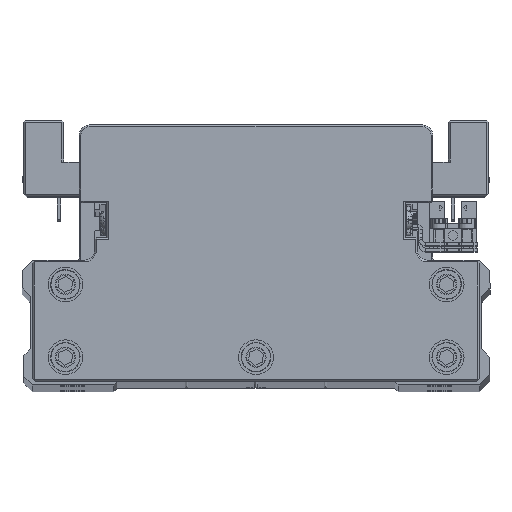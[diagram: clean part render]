
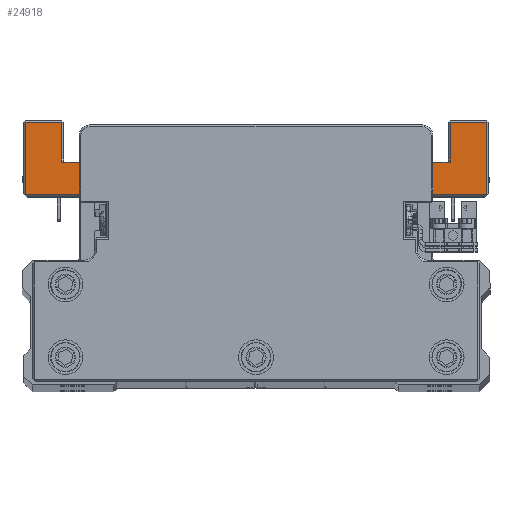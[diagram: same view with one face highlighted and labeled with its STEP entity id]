
A CAD part, top view. The second image highlights one B-rep face of the part: STEP entity #24918.
In plain terms, the highlighted planar face has unit normal (0, 0, 1) as drawn and (0, -1, 0) by its records, which use the part's own axes.
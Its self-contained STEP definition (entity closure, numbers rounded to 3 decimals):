
#138 = LINE ( 'NONE', #12555, #32955 ) ;
#197 = ORIENTED_EDGE ( 'NONE', *, *, #26431, .F. ) ;
#311 = VECTOR ( 'NONE', #2240, 1000. ) ;
#453 = CIRCLE ( 'NONE', #23203, 1.5 ) ;
#639 = EDGE_CURVE ( 'NONE', #24244, #33655, #453, .T. ) ;
#754 = ORIENTED_EDGE ( 'NONE', *, *, #22365, .T. ) ;
#775 = LINE ( 'NONE', #13198, #20446 ) ;
#1421 = ORIENTED_EDGE ( 'NONE', *, *, #2141, .T. ) ;
#1478 = CARTESIAN_POINT ( 'NONE',  ( 40.066, -45., -43. ) ) ;
#1852 = DIRECTION ( 'NONE',  ( 1., 0., 0. ) ) ;
#2105 = CARTESIAN_POINT ( 'NONE',  ( 56., -45., -52.5 ) ) ;
#2141 = EDGE_CURVE ( 'NONE', #39687, #10427, #25916, .T. ) ;
#2240 = DIRECTION ( 'NONE',  ( -1., 0., 0. ) ) ;
#2705 = CARTESIAN_POINT ( 'NONE',  ( -40.066, -45., -41.5 ) ) ;
#4030 = ORIENTED_EDGE ( 'NONE', *, *, #25522, .F. ) ;
#4776 = CIRCLE ( 'NONE', #27536, 1.5 ) ;
#4946 = DIRECTION ( 'NONE',  ( 1., 0., 0. ) ) ;
#5039 = DIRECTION ( 'NONE',  ( -1., 0., 0. ) ) ;
#5588 = CARTESIAN_POINT ( 'NONE',  ( 40.066, -45., -41.5 ) ) ;
#5653 = EDGE_CURVE ( 'NONE', #10427, #36340, #20418, .T. ) ;
#6035 = LINE ( 'NONE', #18467, #11220 ) ;
#6084 = VECTOR ( 'NONE', #21027, 1000. ) ;
#7031 = CARTESIAN_POINT ( 'NONE',  ( -36.217, -45., -42.5 ) ) ;
#7249 = EDGE_CURVE ( 'NONE', #11937, #27771, #17724, .T. ) ;
#7701 = CARTESIAN_POINT ( 'NONE',  ( 66.5, -45., -43.5 ) ) ;
#7959 = VERTEX_POINT ( 'NONE', #28213 ) ;
#8338 = ORIENTED_EDGE ( 'NONE', *, *, #37484, .T. ) ;
#8608 = CARTESIAN_POINT ( 'NONE',  ( 25.802, -45., -41.111 ) ) ;
#8889 = DIRECTION ( 'NONE',  ( -1., 0., 0. ) ) ;
#8930 = VERTEX_POINT ( 'NONE', #32349 ) ;
#8983 = DIRECTION ( 'NONE',  ( -1., 0., 0. ) ) ;
#9505 = CARTESIAN_POINT ( 'NONE',  ( 46., -45., -54. ) ) ;
#9977 = LINE ( 'NONE', #22388, #21191 ) ;
#10015 = LINE ( 'NONE', #22431, #29190 ) ;
#10035 = DIRECTION ( 'NONE',  ( 0., -1., 0. ) ) ;
#10293 = CARTESIAN_POINT ( 'NONE',  ( 36.217, -45., -42.5 ) ) ;
#10427 = VERTEX_POINT ( 'NONE', #34998 ) ;
#10450 = DIRECTION ( 'NONE',  ( 0., 0., -1. ) ) ;
#10508 = CARTESIAN_POINT ( 'NONE',  ( 46., -45., -54. ) ) ;
#11033 = VECTOR ( 'NONE', #10450, 1000. ) ;
#11220 = VECTOR ( 'NONE', #30886, 1000. ) ;
#11543 = VERTEX_POINT ( 'NONE', #36179 ) ;
#11937 = VERTEX_POINT ( 'NONE', #2105 ) ;
#12555 = CARTESIAN_POINT ( 'NONE',  ( -66., -45., -43. ) ) ;
#13095 = FACE_OUTER_BOUND ( 'NONE', #28108, .T. ) ;
#13198 = CARTESIAN_POINT ( 'NONE',  ( -46., -45., -52.5 ) ) ;
#13464 = VERTEX_POINT ( 'NONE', #31396 ) ;
#13539 = ORIENTED_EDGE ( 'NONE', *, *, #18884, .T. ) ;
#14163 = CARTESIAN_POINT ( 'NONE',  ( -46., -45., -54. ) ) ;
#14347 = ORIENTED_EDGE ( 'NONE', *, *, #27784, .T. ) ;
#14502 = LINE ( 'NONE', #26931, #36629 ) ;
#15002 = ORIENTED_EDGE ( 'NONE', *, *, #639, .T. ) ;
#15121 = DIRECTION ( 'NONE',  ( 0., 1., 0. ) ) ;
#15169 = AXIS2_PLACEMENT_3D ( 'NONE', #37943, #10035, #22445 ) ;
#15392 = VECTOR ( 'NONE', #21927, 1000. ) ;
#15647 = EDGE_CURVE ( 'NONE', #13464, #33949, #24452, .T. ) ;
#16003 = EDGE_CURVE ( 'NONE', #24538, #34701, #24354, .T. ) ;
#17073 = VECTOR ( 'NONE', #5039, 1000. ) ;
#17335 = LINE ( 'NONE', #29748, #20499 ) ;
#17724 = LINE ( 'NONE', #30134, #311 ) ;
#17825 = CARTESIAN_POINT ( 'NONE',  ( 46., -45., -52.5 ) ) ;
#18025 = DIRECTION ( 'NONE',  ( 0., 1., 0. ) ) ;
#18185 = CARTESIAN_POINT ( 'NONE',  ( -56., -45., -52.5 ) ) ;
#18274 = CARTESIAN_POINT ( 'NONE',  ( -46., -45., -52.5 ) ) ;
#18467 = CARTESIAN_POINT ( 'NONE',  ( -39.868, -45., -42.987 ) ) ;
#18884 = EDGE_CURVE ( 'NONE', #33655, #39687, #138, .T. ) ;
#18894 = EDGE_CURVE ( 'NONE', #35705, #39267, #37414, .T. ) ;
#18925 = ORIENTED_EDGE ( 'NONE', *, *, #27170, .F. ) ;
#19023 = EDGE_CURVE ( 'NONE', #36340, #29431, #10015, .T. ) ;
#20123 = DIRECTION ( 'NONE',  ( 0., 0., 1. ) ) ;
#20418 = LINE ( 'NONE', #32844, #29677 ) ;
#20446 = VECTOR ( 'NONE', #25616, 1000. ) ;
#20499 = VECTOR ( 'NONE', #1852, 1000. ) ;
#20516 = LINE ( 'NONE', #32943, #17073 ) ;
#20564 = EDGE_CURVE ( 'NONE', #11937, #11543, #9977, .T. ) ;
#21027 = DIRECTION ( 'NONE',  ( -0.991, 0., 0.132 ) ) ;
#21191 = VECTOR ( 'NONE', #34821, 1000. ) ;
#21927 = DIRECTION ( 'NONE',  ( 1., 0., 0. ) ) ;
#22365 = EDGE_CURVE ( 'NONE', #8930, #13464, #35610, .T. ) ;
#22388 = CARTESIAN_POINT ( 'NONE',  ( 56., -45., -64.5 ) ) ;
#22431 = CARTESIAN_POINT ( 'NONE',  ( -56., -45., -52.5 ) ) ;
#22442 = ORIENTED_EDGE ( 'NONE', *, *, #29710, .T. ) ;
#22445 = DIRECTION ( 'NONE',  ( 0., 0., -1. ) ) ;
#23203 = AXIS2_PLACEMENT_3D ( 'NONE', #2705, #15121, #27551 ) ;
#23249 = VECTOR ( 'NONE', #20123, 1000. ) ;
#23922 = ORIENTED_EDGE ( 'NONE', *, *, #20564, .T. ) ;
#24244 = VERTEX_POINT ( 'NONE', #29877 ) ;
#24354 = LINE ( 'NONE', #36786, #30349 ) ;
#24452 = LINE ( 'NONE', #36891, #31621 ) ;
#24538 = VERTEX_POINT ( 'NONE', #10293 ) ;
#24911 = ORIENTED_EDGE ( 'NONE', *, *, #16003, .T. ) ;
#24918 = ADVANCED_FACE ( 'NONE', ( #13095 ), #25506, .T. ) ;
#24975 = DIRECTION ( 'NONE',  ( -1., 0., 0. ) ) ;
#25506 = PLANE ( 'NONE',  #15169 ) ;
#25522 = EDGE_CURVE ( 'NONE', #35445, #29431, #20516, .T. ) ;
#25616 = DIRECTION ( 'NONE',  ( 0., 0., 1. ) ) ;
#25693 = EDGE_CURVE ( 'NONE', #34701, #24244, #6035, .T. ) ;
#25916 = LINE ( 'NONE', #38355, #11033 ) ;
#26431 = EDGE_CURVE ( 'NONE', #27771, #39267, #14502, .T. ) ;
#26931 = CARTESIAN_POINT ( 'NONE',  ( 46., -45., -52.5 ) ) ;
#27170 = EDGE_CURVE ( 'NONE', #35705, #35445, #775, .T. ) ;
#27536 = AXIS2_PLACEMENT_3D ( 'NONE', #5588, #18025, #30440 ) ;
#27551 = DIRECTION ( 'NONE',  ( 0., 0., -1. ) ) ;
#27771 = VERTEX_POINT ( 'NONE', #17825 ) ;
#27784 = EDGE_CURVE ( 'NONE', #33949, #7959, #4776, .T. ) ;
#28108 = EDGE_LOOP ( 'NONE', ( #24911, #34175, #15002, #13539, #1421, #36435, #29642, #4030, #18925, #35014, #197, #33526, #23922, #22442, #754, #34339, #14347, #8338 ) ) ;
#28213 = CARTESIAN_POINT ( 'NONE',  ( 39.868, -45., -42.987 ) ) ;
#29190 = VECTOR ( 'NONE', #34865, 1000. ) ;
#29431 = VERTEX_POINT ( 'NONE', #18185 ) ;
#29642 = ORIENTED_EDGE ( 'NONE', *, *, #19023, .T. ) ;
#29677 = VECTOR ( 'NONE', #4946, 1000. ) ;
#29710 = EDGE_CURVE ( 'NONE', #11543, #8930, #17335, .T. ) ;
#29748 = CARTESIAN_POINT ( 'NONE',  ( 67., -45., -64. ) ) ;
#29877 = CARTESIAN_POINT ( 'NONE',  ( -39.868, -45., -42.987 ) ) ;
#30134 = CARTESIAN_POINT ( 'NONE',  ( 55.5, -45., -52.5 ) ) ;
#30349 = VECTOR ( 'NONE', #8889, 1000. ) ;
#30440 = DIRECTION ( 'NONE',  ( 0., 0., -1. ) ) ;
#30886 = DIRECTION ( 'NONE',  ( -0.991, 0., -0.132 ) ) ;
#31396 = CARTESIAN_POINT ( 'NONE',  ( 66.5, -45., -43. ) ) ;
#31621 = VECTOR ( 'NONE', #8983, 1000. ) ;
#31634 = CARTESIAN_POINT ( 'NONE',  ( -66.5, -45., -43. ) ) ;
#32349 = CARTESIAN_POINT ( 'NONE',  ( 66.5, -45., -64. ) ) ;
#32844 = CARTESIAN_POINT ( 'NONE',  ( -55.5, -45., -64. ) ) ;
#32943 = CARTESIAN_POINT ( 'NONE',  ( -55.5, -45., -52.5 ) ) ;
#32955 = VECTOR ( 'NONE', #24975, 1000. ) ;
#33526 = ORIENTED_EDGE ( 'NONE', *, *, #7249, .F. ) ;
#33655 = VERTEX_POINT ( 'NONE', #39798 ) ;
#33949 = VERTEX_POINT ( 'NONE', #1478 ) ;
#34175 = ORIENTED_EDGE ( 'NONE', *, *, #25693, .T. ) ;
#34339 = ORIENTED_EDGE ( 'NONE', *, *, #15647, .T. ) ;
#34701 = VERTEX_POINT ( 'NONE', #7031 ) ;
#34821 = DIRECTION ( 'NONE',  ( 0., 0., -1. ) ) ;
#34865 = DIRECTION ( 'NONE',  ( 0., 0., 1. ) ) ;
#34998 = CARTESIAN_POINT ( 'NONE',  ( -66.5, -45., -64. ) ) ;
#35014 = ORIENTED_EDGE ( 'NONE', *, *, #18894, .T. ) ;
#35445 = VERTEX_POINT ( 'NONE', #18274 ) ;
#35610 = LINE ( 'NONE', #7701, #23249 ) ;
#35705 = VERTEX_POINT ( 'NONE', #14163 ) ;
#36179 = CARTESIAN_POINT ( 'NONE',  ( 56., -45., -64. ) ) ;
#36340 = VERTEX_POINT ( 'NONE', #38054 ) ;
#36435 = ORIENTED_EDGE ( 'NONE', *, *, #5653, .T. ) ;
#36521 = LINE ( 'NONE', #8608, #6084 ) ;
#36629 = VECTOR ( 'NONE', #39358, 1000. ) ;
#36786 = CARTESIAN_POINT ( 'NONE',  ( -77.786, -45., -42.5 ) ) ;
#36891 = CARTESIAN_POINT ( 'NONE',  ( 40.066, -45., -43. ) ) ;
#37414 = LINE ( 'NONE', #9505, #15392 ) ;
#37484 = EDGE_CURVE ( 'NONE', #7959, #24538, #36521, .T. ) ;
#37943 = CARTESIAN_POINT ( 'NONE',  ( 0., -45., 0. ) ) ;
#38054 = CARTESIAN_POINT ( 'NONE',  ( -56., -45., -64. ) ) ;
#38355 = CARTESIAN_POINT ( 'NONE',  ( -66.5, -45., -64.5 ) ) ;
#39267 = VERTEX_POINT ( 'NONE', #10508 ) ;
#39358 = DIRECTION ( 'NONE',  ( 0., 0., -1. ) ) ;
#39687 = VERTEX_POINT ( 'NONE', #31634 ) ;
#39798 = CARTESIAN_POINT ( 'NONE',  ( -40.066, -45., -43. ) ) ;
